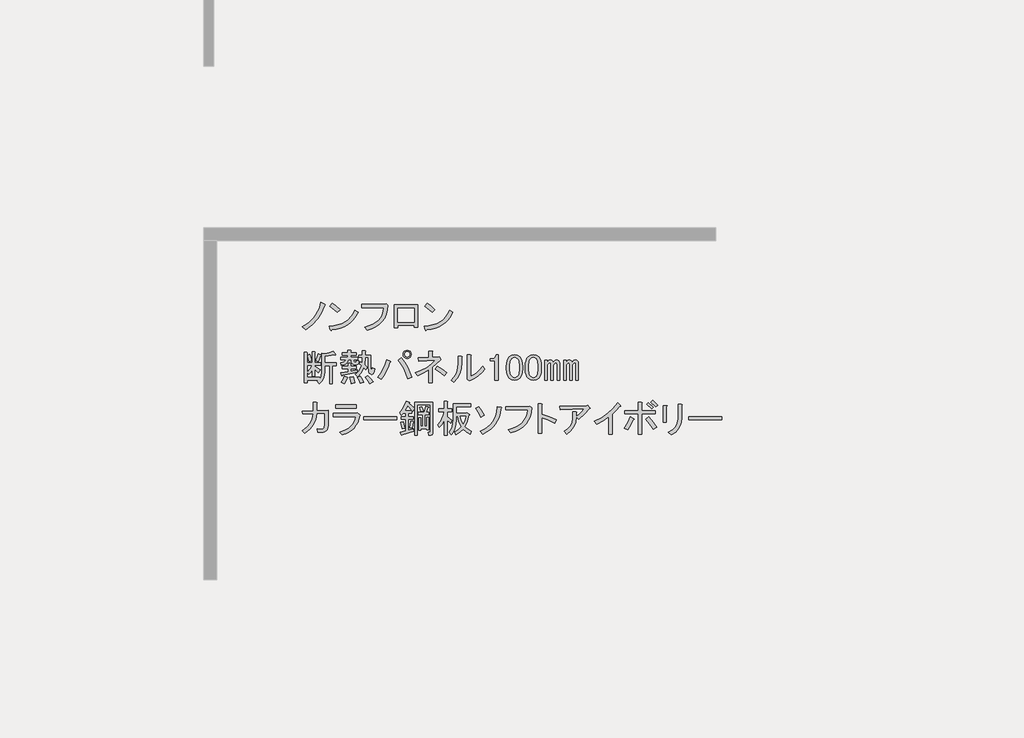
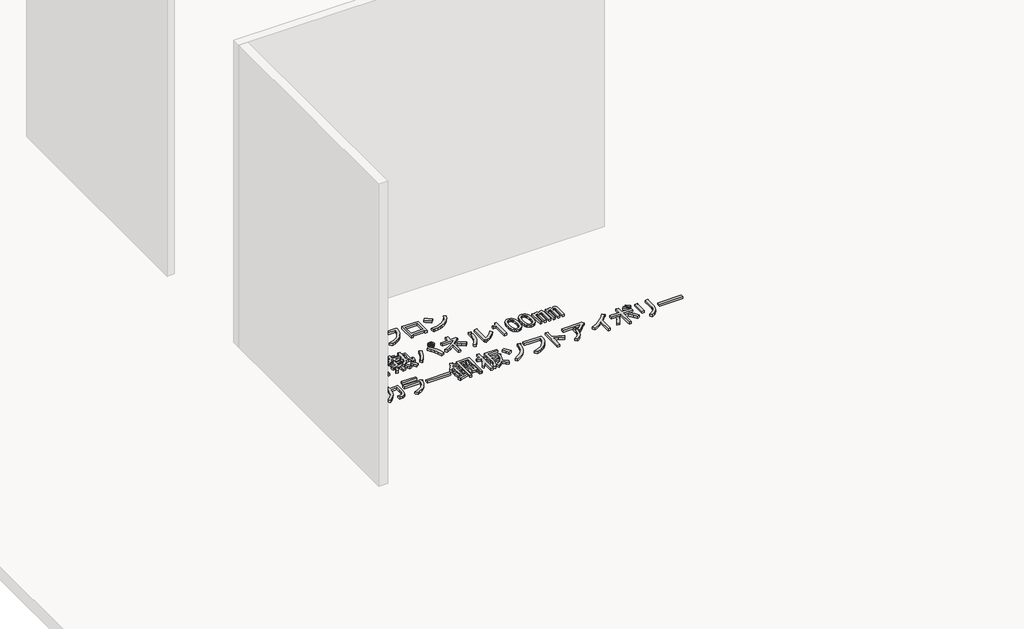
# One storey, part 15 of 117: 1 proxy.
"""IFC4 building model written with IfcOpenShell, lengths in millimetres."""

from ifc_helpers import new_model, si_unit, frame, origin, place, context, project, spatial, polyline, outline, extrude, element, save

model = new_model("IFC4")

# Units and contexts
model_context = context("Model", 3, world=origin())
ifc_project = project(units=[si_unit("LENGTHUNIT", "METRE", prefix="MILLI")], contexts=[model_context])

# Site, building, storey
site = spatial("IfcSite", under=ifc_project)
building = spatial("IfcBuilding", under=site)
storey = spatial("IfcBuildingStorey", under=building, Name="レベル 1", Elevation=500.0)

# Proxy
placement = place(None, origin())
element("IfcBuildingElementProxy", 1, Name="200㎜\u3000MS Pゴシック", ObjectType="200㎜\u3000MS Pゴシック", at=placement, inside=storey, context=model_context, shape_type="SweptSolid", body=[
    extrude(outline(polyline([(-23056.3293015, -4607.0496882), (-23081.9047498, -4666.8215225), (-23110.353844, -4712.7998566), (-23152.0217093, -4758.2034615), (-23201.1610538, -4795.560858), (-23228.7480543, -4773.7211493), (-23181.0455327, -4743.2605029), (-23141.3892195, -4704.7536481), (-23124.0036619, -4680.8305462), (-23108.6296565, -4652.7406577), (-23095.2672031, -4620.4839827), (-23083.9163019, -4584.0605212), (-23052.8809264, -4597.8540214), (-23049.7199159, -4602.4518548), (-23056.3293015, -4607.0496882)])), frame((0.0, 0.0, 500.0), z_axis=(0.0, 0.0, 1.0), x_axis=(1.0, 0.0, 0.0)), (0.0, 0.0, 1.0), 25.0),
    extrude(outline(polyline([(-22956.6022948, -4662.2236891), (-23015.2246708, -4615.0958967), (-22995.6838788, -4590.9572713), (-22968.3842429, -4610.7854279), (-22934.7625862, -4640.3839804), (-22956.6022948, -4662.2236891)])), frame((0.0, 0.0, 500.0), z_axis=(0.0, 0.0, 1.0), x_axis=(1.0, 0.0, 0.0)), (0.0, 0.0, 1.0), 25.0),
    extrude(outline(polyline([(-22794.5286672, -4662.2236891), (-22811.052131, -4691.965924), (-22830.1618761, -4717.9724192), (-22851.8579025, -4740.2431748), (-22876.1402102, -4758.7781907), (-22903.0087992, -4773.577467), (-22932.4636694, -4784.6410036), (-22964.504821, -4791.9688006), (-22999.1322539, -4795.560858), (-23004.8795456, -4803.6070664), (-23010.6268374, -4797.8597747), (-23019.8225042, -4767.9738575), (-22983.9917321, -4765.2977748), (-22951.2142088, -4758.9937141), (-22921.4899342, -4749.0616756), (-22894.8189084, -4735.5016591), (-22871.2011313, -4718.3136646), (-22850.636603, -4697.4976923), (-22833.1253234, -4673.053742), (-22818.6672926, -4644.9818138), (-22794.5286672, -4662.2236891)])), frame((0.0, 0.0, 500.0), z_axis=(0.0, 0.0, 1.0), x_axis=(1.0, 0.0, 0.0)), (0.0, 0.0, 1.0), 25.0),
    extrude(outline(polyline([(-22743.7685864, -4777.1695243), (-22709.985287, -4767.4889298), (-22680.4765359, -4755.1142922), (-22655.242333, -4740.0456116), (-22634.2826783, -4722.282888), (-22617.597572, -4701.8261214), (-22605.1870138, -4678.6753118), (-22597.0510039, -4652.8304591), (-22593.1895423, -4624.2915635), (-22765.6082951, -4624.2915635), (-22765.6082951, -4599.0034798), (-22590.8906256, -4599.0034798), (-22574.7982086, -4595.5551047), (-22562.1541668, -4607.0496882), (-22565.674383, -4643.5449909), (-22573.9361149, -4676.5919185), (-22586.9393625, -4706.1904711), (-22604.6841258, -4732.3406486), (-22627.1704048, -4755.042451), (-22654.3981995, -4774.2958784), (-22686.3675099, -4790.1009308), (-22723.078336, -4802.4576081), (-22743.7685864, -4777.1695243)])), frame((0.0, 0.0, 500.0), z_axis=(0.0, 0.0, 1.0), x_axis=(1.0, 0.0, 0.0)), (0.0, 0.0, 1.0), 25.0),
    extrude(outline(polyline([(-22329.044013, -4776.020066), (-22355.4815551, -4776.020066), (-22355.4815551, -4763.3760241), (-22483.0714321, -4763.3760241), (-22483.0714321, -4781.7673577), (-22509.5089742, -4781.7673577), (-22509.5089742, -4602.4518548), (-22329.044013, -4602.4518548), (-22329.044013, -4776.020066)]), holes=[polyline([(-22483.0714321, -4627.7399386), (-22483.0714321, -4738.0879404), (-22355.4815551, -4738.0879404), (-22355.4815551, -4627.7399386), (-22483.0714321, -4627.7399386)])]), frame((0.0, 0.0, 500.0), z_axis=(0.0, 0.0, 1.0), x_axis=(1.0, 0.0, 0.0)), (0.0, 0.0, 1.0), 25.0),
    extrude(outline(polyline([(-22052.9900951, -4662.2236891), (-22069.5135589, -4691.965924), (-22088.623304, -4717.9724192), (-22110.3193304, -4740.2431748), (-22134.6016381, -4758.7781907), (-22161.4702271, -4773.577467), (-22190.9250974, -4784.6410036), (-22222.9662489, -4791.9688006), (-22257.5936818, -4795.560858), (-22263.3409736, -4803.6070664), (-22269.0882653, -4797.8597747), (-22278.2839321, -4767.9738575), (-22242.4531601, -4765.2977748), (-22209.6756367, -4758.9937141), (-22179.9513622, -4749.0616756), (-22153.2803363, -4735.5016591), (-22129.6625593, -4718.3136646), (-22109.0980309, -4697.4976923), (-22091.5867514, -4673.053742), (-22077.1287205, -4644.9818138), (-22052.9900951, -4662.2236891)])), frame((0.0, 0.0, 500.0), z_axis=(0.0, 0.0, 1.0), x_axis=(1.0, 0.0, 0.0)), (0.0, 0.0, 1.0), 25.0),
    extrude(outline(polyline([(-22215.0637228, -4662.2236891), (-22273.6860987, -4615.0958967), (-22254.1453067, -4590.9572713), (-22226.8456709, -4610.7854279), (-22193.2240141, -4640.3839804), (-22215.0637228, -4662.2236891)])), frame((0.0, 0.0, 500.0), z_axis=(0.0, 0.0, 1.0), x_axis=(1.0, 0.0, 0.0)), (0.0, 0.0, 1.0), 25.0),
    extrude(outline(polyline([(-23122.9978859, -5039.2345221), (-23105.7560106, -4986.3594379), (-23085.0657603, -4992.1067296), (-23083.3415727, -4995.2677401), (-23087.364677, -4997.8540214), (-23104.6065523, -5046.1312722), (-23122.9978859, -5039.2345221)])), frame((0.0, 0.0, 500.0), z_axis=(0.0, 0.0, 1.0), x_axis=(1.0, 0.0, 0.0)), (0.0, 0.0, 1.0), 25.0),
    extrude(outline(polyline([(-22968.9704667, -4990.9572713), (-22970.6946542, -4995.5551047), (-22978.1661335, -4993.256188), (-23055.1798431, -5005.9002299), (-23055.1798431, -5055.326939), (-22963.2231749, -5055.326939), (-22963.2231749, -5077.1666477), (-22994.2585505, -5077.1666477), (-22994.2585505, -5217.4005666), (-23017.2477175, -5217.4005666), (-23017.2477175, -5077.1666477), (-23055.1798431, -5077.1666477), (-23055.1798431, -5126.5933568), (-23057.7661244, -5154.3958807), (-23065.5249683, -5179.1810764), (-23078.4563747, -5200.948944), (-23096.5603438, -5219.6994833), (-23113.8022191, -5200.1586914), (-23103.4570939, -5190.9630245), (-23193.1148454, -5190.9630245), (-23193.1148454, -5212.8027332), (-23216.1040124, -5212.8027332), (-23216.1040124, -4973.715396), (-23194.2643037, -4973.715396), (-23189.3791057, -4976.0143127), (-23193.1148454, -4980.6121461), (-23193.1148454, -5056.4763974), (-23150.5848863, -5056.4763974), (-23150.5848863, -4969.1175626), (-23132.1935527, -4969.1175626), (-23127.3083547, -4971.4164793), (-23131.0440943, -4976.0143127), (-23131.0440943, -5056.4763974), (-23087.364677, -5056.4763974), (-23087.364677, -5074.867731), (-23131.0440943, -5074.867731), (-23131.0440943, -5084.0633978), (-23090.813052, -5110.5009399), (-23104.6065523, -5132.3406486), (-23131.0440943, -5105.9031065), (-23131.0440943, -5158.7781907), (-23150.5848863, -5158.7781907), (-23150.5848863, -5110.5009399), (-23163.8036574, -5130.3290965), (-23178.1718868, -5146.1341488), (-23190.8159287, -5127.7428152), (-23168.97622, -5103.6041898), (-23151.7343447, -5074.867731), (-23193.1148454, -5074.867731), (-23193.1148454, -5169.1233159), (-23095.4108854, -5169.1233159), (-23095.4108854, -5182.9168161), (-23082.479479, -5158.7781907), (-23078.1690102, -5125.4438985), (-23078.1690102, -4980.6121461), (-23056.3293015, -4986.3594379), (-23020.1213634, -4978.8879586), (-22989.660717, -4965.6691875), (-22968.9704667, -4990.9572713)])), frame((0.0, 0.0, 500.0), z_axis=(0.0, 0.0, 1.0), x_axis=(1.0, 0.0, 0.0)), (0.0, 0.0, 1.0), 25.0),
    extrude(outline(polyline([(-23177.0224284, -5047.2807305), (-23189.6664703, -4996.7045631), (-23170.1256783, -4989.8078129), (-23162.3668344, -5013.9464383), (-23157.4816364, -5040.3839804), (-23177.0224284, -5047.2807305)])), frame((0.0, 0.0, 500.0), z_axis=(0.0, 0.0, 1.0), x_axis=(1.0, 0.0, 0.0)), (0.0, 0.0, 1.0), 25.0),
    extrude(outline(polyline([(-22878.1632569, -5167.9738575), (-22874.7148818, -5172.8590555), (-22880.4621736, -5176.020066), (-22890.2325696, -5201.5955143), (-22901.1524239, -5220.8489417), (-22924.141591, -5209.3543582), (-22911.4975491, -5185.790462), (-22901.1524239, -5158.7781907), (-22878.1632569, -5167.9738575)])), frame((0.0, 0.0, 500.0), z_axis=(0.0, 0.0, 1.0), x_axis=(1.0, 0.0, 0.0)), (0.0, 0.0, 1.0), 25.0),
    extrude(outline(polyline([(-22833.3343812, -5163.3760241), (-22823.2766206, -5190.67566), (-22818.3914226, -5212.8027332), (-22847.1278814, -5218.550025), (-22849.7141627, -5196.9976809), (-22857.4730066, -5166.8243992), (-22833.3343812, -5163.3760241)])), frame((0.0, 0.0, 500.0), z_axis=(0.0, 0.0, 1.0), x_axis=(1.0, 0.0, 0.0)), (0.0, 0.0, 1.0), 25.0),
    extrude(outline(polyline([(-22718.388546, -5157.6287323), (-22693.6751914, -5178.8937119), (-22674.7091286, -5203.6070664), (-22701.1466707, -5218.550025), (-22720.4000981, -5188.9514724), (-22739.0787963, -5169.1233159), (-22718.388546, -5157.6287323)])), frame((0.0, 0.0, 500.0), z_axis=(0.0, 0.0, 1.0), x_axis=(1.0, 0.0, 0.0)), (0.0, 0.0, 1.0), 25.0),
    extrude(outline(polyline([(-22777.0109219, -5216.2511083), (-22785.344495, -5191.5377537), (-22798.8506306, -5170.2727742), (-22778.1603803, -5162.2265657), (-22761.2058696, -5183.7789098), (-22749.4239215, -5207.0554415), (-22777.0109219, -5216.2511083)])), frame((0.0, 0.0, 500.0), z_axis=(0.0, 0.0, 1.0), x_axis=(1.0, 0.0, 0.0)), (0.0, 0.0, 1.0), 25.0),
    extrude(outline(polyline([(-22916.0953825, -5153.0308989), (-22918.1069346, -5157.9160969), (-22921.8426743, -5156.479274), (-22927.589966, -5132.3406486), (-22872.4159651, -5124.2944401), (-22872.4159651, -5101.3052731), (-22916.0953825, -5101.3052731), (-22916.0953825, -5082.9139395), (-22872.4159651, -5082.9139395), (-22872.4159651, -5059.9247724), (-22854.0246315, -5059.9247724), (-22849.1394335, -5062.2236891), (-22852.8751732, -5066.8215225), (-22852.8751732, -5082.9139395), (-22808.0462974, -5082.9139395), (-22808.0462974, -5101.3052731), (-22852.8751732, -5101.3052731), (-22852.8751732, -5120.8460651), (-22802.2990057, -5111.6503983), (-22802.2990057, -5127.7428152), (-22916.0953825, -5153.0308989)])), frame((0.0, 0.0, 500.0), z_axis=(0.0, 0.0, 1.0), x_axis=(1.0, 0.0, 0.0)), (0.0, 0.0, 1.0), 25.0),
    extrude(outline(polyline([(-22845.978423, -5031.1883136), (-22871.2665068, -5031.1883136), (-22875.8643402, -5048.6457123), (-22886.2094654, -5061.9363245), (-22902.3018823, -5071.0601502), (-22924.141591, -5076.0171893), (-22928.7394244, -5056.4763974), (-22903.4513406, -5047.8554597), (-22895.9798614, -5040.5276627), (-22891.9567571, -5031.1883136), (-22927.589966, -5031.1883136), (-22927.589966, -5012.79698), (-22873.5654235, -5012.79698), (-22873.5654235, -4995.5551047), (-22917.2448409, -4995.5551047), (-22917.2448409, -4977.1637711), (-22873.5654235, -4977.1637711), (-22873.5654235, -4958.7724374), (-22851.7257148, -4958.7724374), (-22846.8405168, -4961.0713541), (-22850.5762564, -4965.6691875), (-22850.5762564, -4977.1637711), (-22808.0462974, -4977.1637711), (-22808.0462974, -4995.5551047), (-22850.5762564, -4995.5551047), (-22850.5762564, -5012.79698), (-22797.7011723, -5012.79698), (-22797.7011723, -5031.1883136), (-22826.4376311, -5031.1883136), (-22826.4376311, -5043.8323555), (-22825.0008081, -5049.0049181), (-22820.6903393, -5050.7291056), (-22810.3452141, -5050.7291056), (-22806.6094745, -5047.5680951), (-22806.8968391, -5038.0850637), (-22787.3560471, -5040.3839804), (-22790.229693, -5061.9363245), (-22795.5459378, -5067.3244106), (-22803.448464, -5069.1204392), (-22827.5870894, -5069.1204392), (-22841.3805896, -5064.2352412), (-22845.978423, -5049.5796472), (-22845.978423, -5031.1883136)])), frame((0.0, 0.0, 500.0), z_axis=(0.0, 0.0, 1.0), x_axis=(1.0, 0.0, 0.0)), (0.0, 0.0, 1.0), 25.0),
    extrude(outline(polyline([(-22714.9401709, -5013.9464383), (-22736.7798796, -5013.9464383), (-22741.377713, -5071.4193559), (-22721.836921, -5089.8106896), (-22732.1820462, -5111.6503983), (-22748.2744631, -5095.5579813), (-22767.5278905, -5133.2027424), (-22797.7011723, -5165.6749408), (-22814.9430475, -5144.9846905), (-22799.8564067, -5133.0590601), (-22786.7813179, -5117.9724192), (-22775.7177813, -5099.7247679), (-22766.6657967, -5078.316106), (-22783.907672, -5063.3731475), (-22775.8614636, -5046.1312722), (-22762.0679633, -5056.4763974), (-22759.7690466, -5013.9464383), (-22787.3560471, -5013.9464383), (-22787.3560471, -4995.5551047), (-22759.7690466, -4995.5551047), (-22759.7690466, -4961.0713541), (-22737.9293379, -4961.0713541), (-22733.04414, -4963.3702708), (-22736.7798796, -4967.9681043), (-22736.7798796, -4995.5551047), (-22695.3993789, -4995.5551047), (-22695.3993789, -5092.1096063), (-22691.9510039, -5116.2482317), (-22688.7181523, -5118.2597838), (-22685.9163475, -5115.0987733), (-22681.6058787, -5093.2590646), (-22662.0650867, -5100.1558147), (-22666.591079, -5126.9525626), (-22674.421764, -5142.9731384), (-22685.5571418, -5148.2175421), (-22699.9972123, -5142.6857738), (-22706.5347567, -5135.3579768), (-22711.2044313, -5123.719711), (-22714.9401709, -5087.5117729), (-22714.9401709, -5013.9464383)])), frame((0.0, 0.0, 500.0), z_axis=(0.0, 0.0, 1.0), x_axis=(1.0, 0.0, 0.0)), (0.0, 0.0, 1.0), 25.0),
    extrude(outline(polyline([(-22456.3120417, -5016.245355), (-22429.6589762, -5052.9561812), (-22407.1726971, -5090.6727833), (-22388.8532047, -5129.3951616), (-22374.7004987, -5169.1233159), (-22405.7358742, -5179.468441), (-22421.1817208, -5136.3637528), (-22438.7828018, -5097.856898), (-22458.5391173, -5063.9478766), (-22480.4506671, -5034.6366887), (-22456.3120417, -5016.245355)])), frame((0.0, 0.0, 500.0), z_axis=(0.0, 0.0, 1.0), x_axis=(1.0, 0.0, 0.0)), (0.0, 0.0, 1.0), 25.0),
    extrude(outline(polyline([(-22543.6708765, -5042.6828971), (-22539.6477722, -5048.1428243), (-22545.9697932, -5053.0280223), (-22557.8954236, -5088.4457078), (-22572.9820644, -5122.282888), (-22591.2297158, -5154.539563), (-22612.6383776, -5185.2157328), (-22639.0759197, -5167.9738575), (-22615.8712292, -5136.5074351), (-22596.8333252, -5103.0294606), (-22581.9622078, -5067.539934), (-22571.2578769, -5030.0388553), (-22543.6708765, -5042.6828971)])), frame((0.0, 0.0, 500.0), z_axis=(0.0, 0.0, 1.0), x_axis=(1.0, 0.0, 0.0)), (0.0, 0.0, 1.0), 25.0),
    extrude(outline(polyline([(-22410.3337076, -5021.9926468), (-22422.9777495, -5019.6937301), (-22433.3228747, -5012.79698), (-22440.2196248, -5002.4518548), (-22442.5185415, -4989.8078129), (-22440.2196248, -4977.1637711), (-22433.3228747, -4966.8186459), (-22422.9777495, -4959.9218958), (-22410.3337076, -4957.6229791), (-22397.6896657, -4959.9218958), (-22387.3445406, -4966.8186459), (-22380.4477905, -4977.1637711), (-22378.1488738, -4989.8078129), (-22380.4477905, -5002.4518548), (-22387.3445406, -5012.79698), (-22397.6896657, -5019.6937301), (-22410.3337076, -5021.9926468)]), holes=[polyline([(-22410.3337076, -5010.4980633), (-22402.0001346, -5009.0612403), (-22395.390749, -5004.7507715), (-22391.0802802, -4998.141386), (-22389.6434573, -4989.8078129), (-22391.0802802, -4981.4742399), (-22395.390749, -4974.8648544), (-22402.0001346, -4970.5543855), (-22410.3337076, -4969.1175626), (-22418.6672807, -4970.5543855), (-22425.2766662, -4974.8648544), (-22429.587135, -4981.4742399), (-22431.023958, -4989.8078129), (-22429.587135, -4998.141386), (-22425.2766662, -5004.7507715), (-22418.6672807, -5009.0612403), (-22410.3337076, -5010.4980633)])]), frame((0.0, 0.0, 500.0), z_axis=(0.0, 0.0, 1.0), x_axis=(1.0, 0.0, 0.0)), (0.0, 0.0, 1.0), 25.0),
    extrude(outline(polyline([(-22120.6702029, -5155.3298156), (-22157.7402348, -5126.0186277), (-22190.7871624, -5104.7536481), (-22173.5452871, -5082.9139395), (-22134.7510677, -5106.1904711), (-22101.1294109, -5132.3406486), (-22120.6702029, -5155.3298156)])), frame((0.0, 0.0, 500.0), z_axis=(0.0, 0.0, 1.0), x_axis=(1.0, 0.0, 0.0)), (0.0, 0.0, 1.0), 25.0),
    extrude(outline(polyline([(-22166.648537, -5011.6475216), (-22159.7517869, -5009.3486049), (-22147.107745, -5026.5904802), (-22145.9582866, -5032.6251366), (-22151.7055784, -5034.6366887), (-22214.9257878, -5090.9601479), (-22214.9257878, -5211.6532749), (-22241.3633299, -5211.6532749), (-22241.3633299, -5109.3514816), (-22281.5943722, -5133.4901069), (-22326.4232479, -5155.3298156), (-22345.9640399, -5134.6395653), (-22300.4167527, -5115.1706145), (-22259.1799343, -5092.3969709), (-22222.2535848, -5066.3186345), (-22189.637704, -5036.9356054), (-22319.5264978, -5042.6828971), (-22322.9748729, -5017.3948134), (-22241.3633299, -5015.0958967), (-22241.3633299, -4963.3702708), (-22218.3741628, -4963.3702708), (-22212.3395065, -4966.8186459), (-22214.9257878, -4972.5659377), (-22214.9257878, -5013.9464383), (-22166.648537, -5011.6475216)])), frame((0.0, 0.0, 500.0), z_axis=(0.0, 0.0, 1.0), x_axis=(1.0, 0.0, 0.0)), (0.0, 0.0, 1.0), 25.0),
    extrude(outline(polyline([(-22067.703162, -5193.2619413), (-22042.5587606, -5164.0225944), (-22024.5984738, -5131.4785548), (-22013.8223018, -5095.6298225), (-22010.2302444, -5056.4763974), (-22010.2302444, -5004.7507715), (-21986.091619, -5004.7507715), (-21980.3443273, -5008.1991466), (-21983.7927023, -5013.9464383), (-21983.7927023, -5055.326939), (-21987.6002831, -5101.0897496), (-21999.0230255, -5141.82368), (-22018.0609295, -5177.5287301), (-22044.713995, -5208.2048998), (-22067.703162, -5193.2619413)])), frame((0.0, 0.0, 500.0), z_axis=(0.0, 0.0, 1.0), x_axis=(1.0, 0.0, 0.0)), (0.0, 0.0, 1.0), 25.0),
    extrude(outline(polyline([(-21913.6757429, -5162.2265657), (-21888.8905471, -5150.0135708), (-21865.1111275, -5132.9153778), (-21842.3374839, -5110.9319868), (-21820.5696163, -5084.0633978), (-21804.4771994, -5105.9031065), (-21827.753731, -5133.7056304), (-21853.9039086, -5157.3413678), (-21882.9277319, -5176.8103186), (-21914.8252012, -5192.1124829), (-21924.020868, -5196.7103163), (-21942.4122017, -5182.9168161), (-21940.113285, -5177.1695243), (-21940.113285, -4992.1067296), (-21915.9746596, -4992.1067296), (-21910.2273678, -4995.5551047), (-21913.6757429, -5001.3023965), (-21913.6757429, -5162.2265657)])), frame((0.0, 0.0, 500.0), z_axis=(0.0, 0.0, 1.0), x_axis=(1.0, 0.0, 0.0)), (0.0, 0.0, 1.0), 25.0),
    extrude(outline(polyline([(-21725.1645731, -5015.0958967), (-21717.1183647, -5004.1760423), (-21713.6699896, -4992.1067296), (-21699.8764894, -4992.1067296), (-21699.8764894, -5190.9630245), (-21726.3140315, -5190.9630245), (-21726.3140315, -5038.0850637), (-21760.797782, -5038.0850637), (-21760.797782, -5024.2915635), (-21750.4526569, -5024.2915635), (-21736.0844275, -5021.9926468), (-21725.1645731, -5015.0958967)])), frame((0.0, 0.0, 500.0), z_axis=(0.0, 0.0, 1.0), x_axis=(1.0, 0.0, 0.0)), (0.0, 0.0, 1.0), 25.0),
    extrude(outline(polyline([(-21634.3573633, -5081.7644811), (-21632.9205404, -5058.2005849), (-21628.6100716, -5038.0850637), (-21621.4259569, -5021.4179176), (-21611.3681963, -5008.1991466), (-21593.2642272, -4996.1298339), (-21571.137154, -4992.1067296), (-21549.0100807, -4996.1298339), (-21530.9061116, -5008.1991466), (-21520.8483511, -5021.4179176), (-21513.6642364, -5038.0850637), (-21509.3537675, -5058.2005849), (-21507.9169446, -5081.7644811), (-21507.9169446, -5104.7536481), (-21509.3537675, -5127.8146563), (-21513.6642364, -5147.5709718), (-21520.8483511, -5164.0225944), (-21530.9061116, -5177.1695243), (-21549.0100807, -5189.238837), (-21571.137154, -5193.2619413), (-21593.2642272, -5189.238837), (-21611.3681963, -5177.1695243), (-21621.4259569, -5164.0225944), (-21628.6100716, -5147.5709718), (-21632.9205404, -5127.8146563), (-21634.3573633, -5104.7536481), (-21634.3573633, -5081.7644811)]), holes=[polyline([(-21571.137154, -5013.9464383), (-21582.0570083, -5016.245355), (-21591.8274043, -5023.1421052), (-21598.3649487, -5032.2659308), (-21603.0346232, -5044.6944493), (-21606.7703629, -5079.4655644), (-21606.7703629, -5105.9031065), (-21602.7472586, -5140.0994925), (-21597.7183783, -5152.6716932), (-21590.6779459, -5162.2265657), (-21581.1949145, -5169.1233159), (-21571.137154, -5171.4222326), (-21560.2172996, -5169.1233159), (-21550.4469036, -5162.2265657), (-21543.9093592, -5153.1027401), (-21539.2396847, -5140.6742216), (-21535.503945, -5105.9031065), (-21535.503945, -5079.4655644), (-21539.2396847, -5044.6944493), (-21543.9093592, -5032.2659308), (-21550.4469036, -5023.1421052), (-21560.2172996, -5016.245355), (-21571.137154, -5013.9464383)])]), frame((0.0, 0.0, 500.0), z_axis=(0.0, 0.0, 1.0), x_axis=(1.0, 0.0, 0.0)), (0.0, 0.0, 1.0), 25.0),
    extrude(outline(polyline([(-21487.2266943, -5081.7644811), (-21485.7898713, -5058.2005849), (-21481.4794025, -5038.0850637), (-21474.2952878, -5021.4179176), (-21464.2375272, -5008.1991466), (-21446.1335582, -4996.1298339), (-21424.0064849, -4992.1067296), (-21401.8794116, -4996.1298339), (-21383.7754426, -5008.1991466), (-21373.717682, -5021.4179176), (-21366.5335673, -5038.0850637), (-21362.2230985, -5058.2005849), (-21360.7862755, -5081.7644811), (-21360.7862755, -5104.7536481), (-21362.2230985, -5127.8146563), (-21366.5335673, -5147.5709718), (-21373.717682, -5164.0225944), (-21383.7754426, -5177.1695243), (-21401.8794116, -5189.238837), (-21424.0064849, -5193.2619413), (-21446.1335582, -5189.238837), (-21464.2375272, -5177.1695243), (-21474.2952878, -5164.0225944), (-21481.4794025, -5147.5709718), (-21485.7898713, -5127.8146563), (-21487.2266943, -5104.7536481), (-21487.2266943, -5081.7644811)]), holes=[polyline([(-21424.0064849, -5013.9464383), (-21434.9263392, -5016.245355), (-21444.6967352, -5023.1421052), (-21451.2342796, -5032.2659308), (-21455.9039542, -5044.6944493), (-21459.6396938, -5079.4655644), (-21459.6396938, -5105.9031065), (-21455.6165896, -5140.0994925), (-21450.5877093, -5152.6716932), (-21443.5472769, -5162.2265657), (-21434.0642455, -5169.1233159), (-21424.0064849, -5171.4222326), (-21413.0866306, -5169.1233159), (-21403.3162346, -5162.2265657), (-21396.7786902, -5153.1027401), (-21392.1090156, -5140.6742216), (-21388.373276, -5105.9031065), (-21388.373276, -5079.4655644), (-21392.1090156, -5044.6944493), (-21396.7786902, -5032.2659308), (-21403.3162346, -5023.1421052), (-21413.0866306, -5016.245355), (-21424.0064849, -5013.9464383)])]), frame((0.0, 0.0, 500.0), z_axis=(0.0, 0.0, 1.0), x_axis=(1.0, 0.0, 0.0)), (0.0, 0.0, 1.0), 25.0),
    extrude(outline(polyline([(-21315.9573998, -5193.2619413), (-21335.4981918, -5193.2619413), (-21335.4981918, -5035.786147), (-21315.9573998, -5035.786147), (-21315.9573998, -5053.0280223), (-21303.8880871, -5037.5103346), (-21290.6693161, -5032.337772), (-21281.4736492, -5033.7745949), (-21274.5768991, -5038.0850637), (-21267.680149, -5051.878564), (-21254.7487426, -5037.22297), (-21241.2426069, -5032.337772), (-21232.9090339, -5033.7745949), (-21226.2996483, -5038.0850637), (-21221.1270858, -5046.7060014), (-21219.4028982, -5058.7753141), (-21219.4028982, -5193.2619413), (-21238.9436902, -5193.2619413), (-21238.9436902, -5069.1204392), (-21241.5299715, -5059.6374078), (-21249.2888154, -5056.4763974), (-21259.6339406, -5061.0742308), (-21265.6685969, -5069.6951684), (-21267.680149, -5079.4655644), (-21267.680149, -5193.2619413), (-21287.220941, -5193.2619413), (-21287.220941, -5069.1204392), (-21289.8072223, -5059.6374078), (-21297.5660662, -5056.4763974), (-21307.9111913, -5061.0742308), (-21313.9458477, -5069.6951684), (-21315.9573998, -5079.4655644), (-21315.9573998, -5193.2619413)])), frame((0.0, 0.0, 500.0), z_axis=(0.0, 0.0, 1.0), x_axis=(1.0, 0.0, 0.0)), (0.0, 0.0, 1.0), 25.0),
    extrude(outline(polyline([(-21094.1119379, -5032.337772), (-21085.7783648, -5033.7745949), (-21079.1689793, -5038.0850637), (-21073.9964167, -5046.7060014), (-21072.2722292, -5058.7753141), (-21072.2722292, -5193.2619413), (-21091.8130212, -5193.2619413), (-21091.8130212, -5069.1204392), (-21094.3993024, -5059.6374078), (-21102.1581463, -5056.4763974), (-21112.5032715, -5061.0742308), (-21118.5379278, -5069.6951684), (-21120.54948, -5079.4655644), (-21120.54948, -5193.2619413), (-21140.0902719, -5193.2619413), (-21140.0902719, -5069.1204392), (-21142.6765532, -5059.6374078), (-21150.4353971, -5056.4763974), (-21160.7805223, -5061.0742308), (-21166.8151786, -5069.6951684), (-21168.8267307, -5079.4655644), (-21168.8267307, -5193.2619413), (-21188.3675227, -5193.2619413), (-21188.3675227, -5035.786147), (-21168.8267307, -5035.786147), (-21168.8267307, -5053.0280223), (-21156.757418, -5037.5103346), (-21143.538647, -5032.337772), (-21134.3429802, -5033.7745949), (-21127.4462301, -5038.0850637), (-21120.54948, -5051.878564), (-21107.6180735, -5037.22297), (-21094.1119379, -5032.337772)])), frame((0.0, 0.0, 500.0), z_axis=(0.0, 0.0, 1.0), x_axis=(1.0, 0.0, 0.0)), (0.0, 0.0, 1.0), 25.0),
    extrude(outline(polyline([(-23052.8809264, -5450.7291056), (-23118.4000525, -5453.0280223), (-23126.6617844, -5499.293721), (-23144.55023, -5540.3868571), (-23172.0653893, -5576.3074306), (-23209.2072623, -5607.0554415), (-23228.7480543, -5587.5146495), (-23193.7614157, -5559.2810787), (-23168.1141262, -5527.4554506), (-23151.8061858, -5492.0377651), (-23144.8375946, -5453.0280223), (-23226.4491376, -5455.326939), (-23228.7480543, -5432.337772), (-23143.6881362, -5430.0388553), (-23143.6881362, -5365.6691875), (-23119.5495108, -5365.6691875), (-23112.6527607, -5369.1175626), (-23117.2505941, -5374.8648544), (-23117.2505941, -5430.0388553), (-23026.4433843, -5426.5904802), (-23026.4433843, -5497.856898), (-23029.0296656, -5545.8467842), (-23036.7885095, -5577.1695243), (-23043.397895, -5587.2272849), (-23052.8809264, -5594.4113996), (-23065.2376037, -5598.7218684), (-23080.4679269, -5600.1586914), (-23108.0549273, -5600.1586914), (-23111.5033024, -5571.4222326), (-23081.6173852, -5573.7211493), (-23067.5365204, -5570.8475034), (-23059.7776765, -5562.2265657), (-23054.6051139, -5536.938482), (-23052.8809264, -5497.856898), (-23052.8809264, -5450.7291056)])), frame((0.0, 0.0, 500.0), z_axis=(0.0, 0.0, 1.0), x_axis=(1.0, 0.0, 0.0)), (0.0, 0.0, 1.0), 25.0),
    extrude(outline(polyline([(-22938.0270479, -5596.7103163), (-22888.3848153, -5578.3908238), (-22868.1435721, -5566.2676303), (-22850.9555777, -5552.1688052), (-22836.820832, -5536.0943485), (-22825.7393351, -5518.0442603), (-22817.7110869, -5498.0185406), (-22812.7360875, -5476.0171893), (-22987.453757, -5476.0171893), (-22987.453757, -5450.7291056), (-22811.5866291, -5450.7291056), (-22801.241504, -5447.2807305), (-22780.5512536, -5459.9247724), (-22777.6776078, -5465.3846996), (-22782.8501703, -5470.2698976), (-22788.9746281, -5497.7491363), (-22798.1523347, -5522.7139349), (-22810.3832899, -5545.1642933), (-22825.667494, -5565.1002116), (-22844.0049467, -5582.5216898), (-22865.3956483, -5597.4287278), (-22889.8395985, -5609.8213256), (-22917.3367975, -5619.6994833), (-22938.0270479, -5596.7103163)])), frame((0.0, 0.0, 500.0), z_axis=(0.0, 0.0, 1.0), x_axis=(1.0, 0.0, 0.0)), (0.0, 0.0, 1.0), 25.0),
    extrude(outline(polyline([(-22808.1382541, -5410.4980633), (-22966.7635067, -5410.4980633), (-22966.7635067, -5385.2099795), (-22808.1382541, -5385.2099795), (-22808.1382541, -5410.4980633)])), frame((0.0, 0.0, 500.0), z_axis=(0.0, 0.0, 1.0), x_axis=(1.0, 0.0, 0.0)), (0.0, 0.0, 1.0), 25.0),
    extrude(outline(polyline([(-22749.1020731, -5501.3052731), (-22749.1020731, -5476.0171893), (-22492.7728606, -5476.0171893), (-22492.7728606, -5501.3052731), (-22749.1020731, -5501.3052731)])), frame((0.0, 0.0, 500.0), z_axis=(0.0, 0.0, 1.0), x_axis=(1.0, 0.0, 0.0)), (0.0, 0.0, 1.0), 25.0),
    extrude(outline(polyline([(-22350.515895, -5365.6691875), (-22210.281976, -5365.6691875), (-22210.281976, -5605.9059831), (-22214.0177157, -5617.1132021), (-22225.2249346, -5620.8489417), (-22241.3173515, -5620.8489417), (-22245.9151849, -5599.009233), (-22234.4206014, -5599.009233), (-22230.9722264, -5597.8597747), (-22229.822768, -5594.4113996), (-22229.822768, -5384.0605212), (-22330.975103, -5384.0605212), (-22330.975103, -5623.1478584), (-22350.515895, -5623.1478584), (-22350.515895, -5365.6691875)])), frame((0.0, 0.0, 500.0), z_axis=(0.0, 0.0, 1.0), x_axis=(1.0, 0.0, 0.0)), (0.0, 0.0, 1.0), 25.0),
    extrude(outline(polyline([(-22297.6408108, -5397.8540214), (-22290.4566961, -5413.0843446), (-22284.9967689, -5433.4872303), (-22302.2386442, -5439.2345221), (-22313.7332277, -5402.4518548), (-22297.6408108, -5397.8540214)])), frame((0.0, 0.0, 500.0), z_axis=(0.0, 0.0, 1.0), x_axis=(1.0, 0.0, 0.0)), (0.0, 0.0, 1.0), 25.0),
    extrude(outline(polyline([(-22244.7657266, -5399.0034798), (-22242.1794453, -5402.4518548), (-22248.2141016, -5405.9002299), (-22260.8581435, -5443.8323555), (-22240.1678932, -5443.8323555), (-22240.1678932, -5462.2236891), (-22271.2032687, -5462.2236891), (-22271.2032687, -5550.7319822), (-22256.2603101, -5550.7319822), (-22256.2603101, -5482.9139395), (-22240.1678932, -5482.9139395), (-22240.1678932, -5577.1695243), (-22256.2603101, -5577.1695243), (-22256.2603101, -5569.1233159), (-22302.2386442, -5569.1233159), (-22302.2386442, -5581.7673577), (-22318.3310611, -5581.7673577), (-22318.3310611, -5485.2128562), (-22302.2386442, -5485.2128562), (-22302.2386442, -5550.7319822), (-22287.2956856, -5550.7319822), (-22287.2956856, -5462.2236891), (-22322.9288945, -5462.2236891), (-22322.9288945, -5443.8323555), (-22276.9505604, -5443.8323555), (-22266.6054353, -5394.4056463), (-22244.7657266, -5399.0034798)])), frame((0.0, 0.0, 500.0), z_axis=(0.0, 0.0, 1.0), x_axis=(1.0, 0.0, 0.0)), (0.0, 0.0, 1.0), 25.0),
    extrude(outline(polyline([(-22365.4588536, -5434.6366887), (-22406.8393542, -5390.9572713), (-22428.6790629, -5430.0388553), (-22373.505062, -5430.0388553), (-22373.505062, -5448.4301889), (-22399.9426041, -5448.4301889), (-22399.9426041, -5477.1666477), (-22362.0104785, -5477.1666477), (-22362.0104785, -5495.5579813), (-22399.9426041, -5495.5579813), (-22399.9426041, -5582.9168161), (-22360.8610201, -5572.5716909), (-22358.5621034, -5592.1124829), (-22450.5187716, -5617.4005666), (-22452.8176883, -5623.1478584), (-22457.4155217, -5619.6994833), (-22464.3122718, -5596.7103163), (-22419.4833961, -5587.5146495), (-22419.4833961, -5495.5579813), (-22457.4155217, -5495.5579813), (-22457.4155217, -5477.1666477), (-22419.4833961, -5477.1666477), (-22419.4833961, -5448.4301889), (-22441.3231048, -5448.4301889), (-22456.2660634, -5466.8215225), (-22468.9101052, -5446.1312722), (-22440.7483756, -5408.4865112), (-22416.035021, -5357.6229791), (-22394.1953124, -5363.3702708), (-22390.7469373, -5367.1060105), (-22396.4942291, -5369.1175626), (-22397.6436874, -5372.5659377), (-22352.8148117, -5410.4980633), (-22365.4588536, -5434.6366887)])), frame((0.0, 0.0, 500.0), z_axis=(0.0, 0.0, 1.0), x_axis=(1.0, 0.0, 0.0)), (0.0, 0.0, 1.0), 25.0),
    extrude(outline(polyline([(-22362.0104785, -5513.949315), (-22359.4241972, -5517.1103254), (-22363.1599368, -5519.6966067), (-22371.2061453, -5566.8243992), (-22389.5974789, -5564.5254825), (-22383.8501872, -5510.5009399), (-22362.0104785, -5513.949315)])), frame((0.0, 0.0, 500.0), z_axis=(0.0, 0.0, 1.0), x_axis=(1.0, 0.0, 0.0)), (0.0, 0.0, 1.0), 25.0),
    extrude(outline(polyline([(-22439.0241881, -5515.0987733), (-22427.5296046, -5566.8243992), (-22448.2198549, -5572.5716909), (-22459.7144384, -5520.8460651), (-22439.0241881, -5515.0987733)])), frame((0.0, 0.0, 500.0), z_axis=(0.0, 0.0, 1.0), x_axis=(1.0, 0.0, 0.0)), (0.0, 0.0, 1.0), 25.0),
    extrude(outline(polyline([(-22039.0126816, -5594.4113996), (-22010.2762228, -5577.1695243), (-21988.4365141, -5555.3298156), (-22006.2531185, -5513.3745858), (-22016.0235145, -5472.5688143), (-22028.6675564, -5472.5688143), (-22028.6675564, -5496.7074397), (-22031.1101554, -5538.4471461), (-22038.4379524, -5572.8590555), (-22050.6509474, -5599.9431679), (-22067.7491404, -5619.6994833), (-22081.5426406, -5596.7103163), (-22068.4675518, -5579.3247587), (-22059.1282027, -5557.0540032), (-22053.5245933, -5529.8980496), (-22051.6567234, -5497.856898), (-22051.6567234, -5377.1637711), (-21914.8711796, -5377.1637711), (-21914.8711796, -5399.0034798), (-22028.6675564, -5399.0034798), (-22028.6675564, -5450.7291056), (-21949.3549301, -5450.7291056), (-21943.6076384, -5444.9818138), (-21924.0668464, -5458.7753141), (-21922.6300234, -5462.5110537), (-21927.5152214, -5466.8215225), (-21939.8718987, -5513.3745858), (-21958.5505969, -5554.1803573), (-21939.5845341, -5572.5716909), (-21907.9744294, -5590.9630245), (-21917.1700963, -5615.1016499), (-21945.0444613, -5599.009233), (-21973.4935555, -5573.7211493), (-21997.9195455, -5598.1471392), (-22029.8170148, -5618.550025), (-22039.0126816, -5594.4113996)]), holes=[polyline([(-21994.1838058, -5472.5688143), (-21986.1375974, -5505.6157419), (-21973.4935555, -5533.4901069), (-21960.8495136, -5507.3399294), (-21952.8033052, -5472.5688143), (-21994.1838058, -5472.5688143)])]), frame((0.0, 0.0, 500.0), z_axis=(0.0, 0.0, 1.0), x_axis=(1.0, 0.0, 0.0)), (0.0, 0.0, 1.0), 25.0),
    extrude(outline(polyline([(-22121.7736829, -5623.1478584), (-22121.7736829, -5503.6041898), (-22139.5902874, -5537.8005758), (-22158.5563502, -5559.927649), (-22170.0509337, -5539.2373987), (-22152.8090584, -5516.5355963), (-22139.0155582, -5492.1096063), (-22128.670433, -5465.9594288), (-22121.7736829, -5438.0850637), (-22163.1541836, -5438.0850637), (-22163.1541836, -5416.245355), (-22121.7736829, -5416.245355), (-22121.7736829, -5356.4735207), (-22099.9339742, -5356.4735207), (-22095.0487762, -5358.7724374), (-22098.7845159, -5363.3702708), (-22098.7845159, -5416.245355), (-22060.8523903, -5416.245355), (-22060.8523903, -5438.0850637), (-22098.7845159, -5438.0850637), (-22098.7845159, -5478.316106), (-22060.8523903, -5504.7536481), (-22071.1975154, -5527.7428152), (-22098.7845159, -5504.7536481), (-22098.7845159, -5623.1478584), (-22121.7736829, -5623.1478584)])), frame((0.0, 0.0, 500.0), z_axis=(0.0, 0.0, 1.0), x_axis=(1.0, 0.0, 0.0)), (0.0, 0.0, 1.0), 25.0),
    extrude(outline(polyline([(-21741.3029684, -5517.39769), (-21729.1618145, -5496.5637574), (-21719.1758951, -5469.6951684), (-21711.3452101, -5436.7919231), (-21705.6697595, -5397.8540214), (-21676.9333007, -5402.4518548), (-21672.0481027, -5406.1875945), (-21678.082759, -5412.79698), (-21683.3271628, -5448.1428243), (-21692.1636238, -5480.6150228), (-21704.5921423, -5510.2135753), (-21720.6127181, -5536.938482), (-21736.705135, -5555.9045448), (-21758.5448437, -5574.8706076), (-21819.4661363, -5612.8027332), (-21840.1563867, -5592.1124829), (-21809.4083758, -5576.2355894), (-21782.6834691, -5558.4908261), (-21759.9816666, -5538.878193), (-21741.3029684, -5517.39769)])), frame((0.0, 0.0, 500.0), z_axis=(0.0, 0.0, 1.0), x_axis=(1.0, 0.0, 0.0)), (0.0, 0.0, 1.0), 25.0),
    extrude(outline(polyline([(-21835.5585533, -5479.4655644), (-21855.961439, -5440.0966158), (-21875.7895956, -5411.6475216), (-21850.5015118, -5397.8540214), (-21830.3859907, -5426.5904802), (-21809.1210112, -5464.5226058), (-21835.5585533, -5479.4655644)])), frame((0.0, 0.0, 500.0), z_axis=(0.0, 0.0, 1.0), x_axis=(1.0, 0.0, 0.0)), (0.0, 0.0, 1.0), 25.0),
    extrude(outline(polyline([(-21619.6902747, -5577.1695243), (-21585.9069754, -5567.4889298), (-21556.3982242, -5555.1142922), (-21531.1640214, -5540.0456116), (-21510.2043667, -5522.282888), (-21493.5192603, -5501.8261214), (-21481.1087022, -5478.6753118), (-21472.9726923, -5452.8304591), (-21469.1112306, -5424.2915635), (-21641.5299834, -5424.2915635), (-21641.5299834, -5399.0034798), (-21466.8123139, -5399.0034798), (-21450.719897, -5395.5551047), (-21438.0758551, -5407.0496882), (-21441.5960713, -5443.5449909), (-21449.8578032, -5476.5919185), (-21462.8610508, -5506.1904711), (-21480.6058141, -5532.3406486), (-21503.0920932, -5555.042451), (-21530.3198879, -5574.2958784), (-21562.2891983, -5590.1009308), (-21599.0000244, -5602.4576081), (-21619.6902747, -5577.1695243)])), frame((0.0, 0.0, 500.0), z_axis=(0.0, 0.0, 1.0), x_axis=(1.0, 0.0, 0.0)), (0.0, 0.0, 1.0), 25.0),
    extrude(outline(polyline([(-21357.8436622, -5457.6258557), (-21301.2328383, -5476.5919185), (-21244.0472853, -5501.3052731), (-21257.8407855, -5527.7428152), (-21313.302151, -5501.8800023), (-21357.8436622, -5486.3623145), (-21357.8436622, -5605.9059831), (-21384.2812042, -5605.9059831), (-21384.2812042, -5376.0143127), (-21361.2920372, -5376.0143127), (-21353.5331933, -5378.8879586), (-21357.8436622, -5385.2099795), (-21357.8436622, -5457.6258557)])), frame((0.0, 0.0, 500.0), z_axis=(0.0, 0.0, 1.0), x_axis=(1.0, 0.0, 0.0)), (0.0, 0.0, 1.0), 25.0),
    extrude(outline(polyline([(-21089.5600828, -5478.316106), (-21093.3676636, -5519.5529244), (-21107.0893227, -5555.9045448), (-21130.72506, -5587.3709672), (-21164.2748757, -5613.9521916), (-21183.8156677, -5592.1124829), (-21154.1452739, -5571.8532794), (-21132.9521356, -5547.8583363), (-21120.2362526, -5520.1276536), (-21115.9976249, -5488.6612312), (-21115.9976249, -5439.2345221), (-21091.8589995, -5439.2345221), (-21086.1117077, -5441.8208034), (-21089.5600828, -5447.2807305), (-21089.5600828, -5477.1666477), (-21053.0647801, -5446.4186368), (-21026.3398734, -5416.245355), (-21213.7015848, -5423.1421052), (-21216.0005015, -5396.7045631), (-21006.7990814, -5390.9572713), (-20998.752873, -5388.6583546), (-20981.5109977, -5409.3486049), (-20981.2236331, -5412.5096154), (-20987.2582895, -5412.79698), (-21025.1904151, -5456.1890328), (-21070.0192908, -5496.7074397), (-21089.5600828, -5478.316106)])), frame((0.0, 0.0, 500.0), z_axis=(0.0, 0.0, 1.0), x_axis=(1.0, 0.0, 0.0)), (0.0, 0.0, 1.0), 25.0),
    extrude(outline(polyline([(-20947.7169221, -5511.6503983), (-20891.0342572, -5483.7760332), (-20841.6793892, -5450.7291056), (-20799.6523182, -5412.5096154), (-20764.9530442, -5369.1175626), (-20743.1133355, -5387.5088962), (-20740.5270542, -5393.5435526), (-20751.1595439, -5397.8540214), (-20776.1602631, -5426.8778448), (-20807.4830032, -5456.4763974), (-20807.4830032, -5612.8027332), (-20833.9205453, -5612.8027332), (-20833.9205453, -5478.316106), (-20877.5999627, -5507.9146586), (-20928.1761302, -5534.6395653), (-20947.7169221, -5511.6503983)])), frame((0.0, 0.0, 500.0), z_axis=(0.0, 0.0, 1.0), x_axis=(1.0, 0.0, 0.0)), (0.0, 0.0, 1.0), 25.0),
    extrude(outline(polyline([(-20523.6587469, -5478.316106), (-20487.4508088, -5520.2713359), (-20461.5879959, -5558.7781907), (-20486.8760796, -5576.020066), (-20513.6009863, -5534.9269299), (-20545.4984556, -5496.7074397), (-20523.6587469, -5478.316106)])), frame((0.0, 0.0, 500.0), z_axis=(0.0, 0.0, 1.0), x_axis=(1.0, 0.0, 0.0)), (0.0, 0.0, 1.0), 25.0),
    extrude(outline(polyline([(-20578.8327478, -5428.8893969), (-20473.0825794, -5428.8893969), (-20473.0825794, -5454.1774807), (-20578.8327478, -5454.1774807), (-20578.8327478, -5613.9521916), (-20605.2702899, -5613.9521916), (-20605.2702899, -5454.1774807), (-20708.7215416, -5454.1774807), (-20708.7215416, -5428.8893969), (-20605.2702899, -5428.8893969), (-20605.2702899, -5364.5197292), (-20581.1316645, -5364.5197292), (-20574.2349144, -5367.9681043), (-20578.8327478, -5373.715396), (-20578.8327478, -5428.8893969)])), frame((0.0, 0.0, 500.0), z_axis=(0.0, 0.0, 1.0), x_axis=(1.0, 0.0, 0.0)), (0.0, 0.0, 1.0), 25.0),
    extrude(outline(polyline([(-20639.7540405, -5492.1096063), (-20637.4551238, -5496.9948043), (-20644.3518739, -5500.1558147), (-20663.8926659, -5538.9500341), (-20688.0312912, -5579.468441), (-20713.319375, -5565.6749408), (-20686.8818329, -5523.1449818), (-20665.0421242, -5478.316106), (-20639.7540405, -5492.1096063)])), frame((0.0, 0.0, 500.0), z_axis=(0.0, 0.0, 1.0), x_axis=(1.0, 0.0, 0.0)), (0.0, 0.0, 1.0), 25.0),
    extrude(outline(polyline([(-20500.6695799, -5416.245355), (-20538.6017055, -5380.6121461), (-20524.8082053, -5366.8186459), (-20486.8760796, -5401.3023965), (-20500.6695799, -5416.245355)])), frame((0.0, 0.0, 500.0), z_axis=(0.0, 0.0, 1.0), x_axis=(1.0, 0.0, 0.0)), (0.0, 0.0, 1.0), 25.0),
    extrude(outline(polyline([(-20468.484746, -5400.1529381), (-20506.4168716, -5362.2208125), (-20491.473913, -5349.5767706), (-20453.5417874, -5386.3594379), (-20468.484746, -5400.1529381)])), frame((0.0, 0.0, 500.0), z_axis=(0.0, 0.0, 1.0), x_axis=(1.0, 0.0, 0.0)), (0.0, 0.0, 1.0), 25.0),
    extrude(outline(polyline([(-20265.9501844, -5494.408523), (-20270.9790647, -5534.495883), (-20286.0657055, -5568.5485867), (-20311.210107, -5596.566634), (-20346.412269, -5618.550025), (-20369.4014361, -5599.009233), (-20336.138985, -5579.468441), (-20312.215883, -5555.3298156), (-20297.6321302, -5526.5933568), (-20292.3877265, -5493.2590646), (-20292.3877265, -5378.3132294), (-20268.2491011, -5378.3132294), (-20261.9270801, -5381.7616045), (-20265.9501844, -5387.5088962), (-20265.9501844, -5494.408523)])), frame((0.0, 0.0, 500.0), z_axis=(0.0, 0.0, 1.0), x_axis=(1.0, 0.0, 0.0)), (0.0, 0.0, 1.0), 25.0),
    extrude(outline(polyline([(-20384.3443946, -5519.6966067), (-20410.7819367, -5519.6966067), (-20410.7819367, -5389.8078129), (-20385.493853, -5389.8078129), (-20379.4591966, -5392.6814588), (-20384.3443946, -5399.0034798), (-20384.3443946, -5519.6966067)])), frame((0.0, 0.0, 500.0), z_axis=(0.0, 0.0, 1.0), x_axis=(1.0, 0.0, 0.0)), (0.0, 0.0, 1.0), 25.0),
    extrude(outline(polyline([(-20209.6267251, -5501.3052731), (-20209.6267251, -5476.0171893), (-19953.2975126, -5476.0171893), (-19953.2975126, -5501.3052731), (-20209.6267251, -5501.3052731)])), frame((0.0, 0.0, 500.0), z_axis=(0.0, 0.0, 1.0), x_axis=(1.0, 0.0, 0.0)), (0.0, 0.0, 1.0), 25.0),
])

save(model, "model.ifc")
